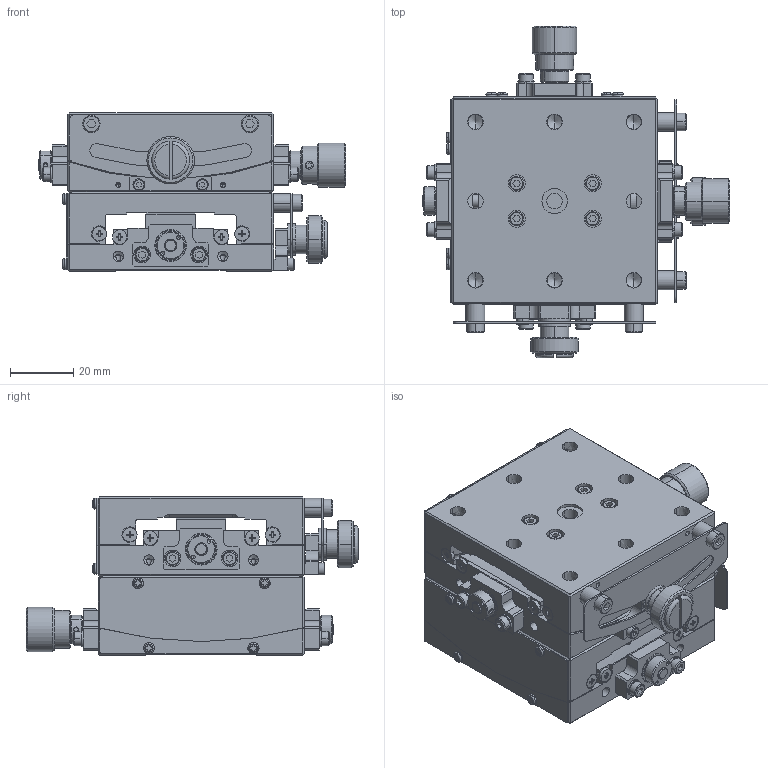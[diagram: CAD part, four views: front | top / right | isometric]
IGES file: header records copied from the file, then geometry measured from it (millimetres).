
Global section: file name: No Iges File Name specified; native system: AutoDesk Inventor R12.0; preprocessor: AutoDesk Inventor Iges Exporter R12.0; date: 20140526.143414; units: millimetre
Bounding box: 97.1 x 104.8 x 50 mm (x, y, z)
Volume: 175985.5 mm3; surface area: 81405 mm2
Topology: 3 solids, 92 shells, 2922 faces, 7249 edges, 4549 vertices
Faces by surface type: plane 1222, bspline 782, cylinder 416, cone 232, revolution 186, torus 52, sphere 32
